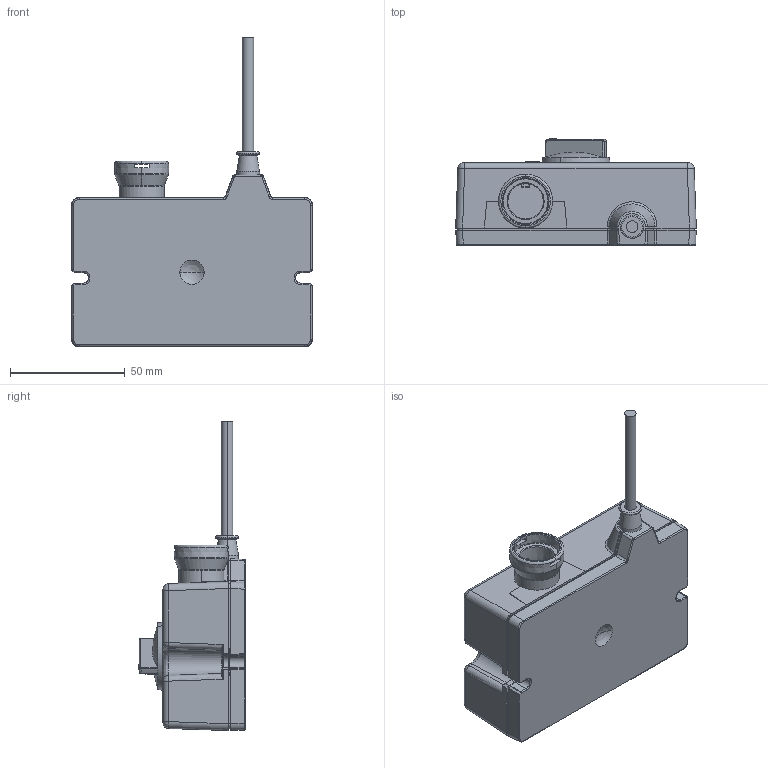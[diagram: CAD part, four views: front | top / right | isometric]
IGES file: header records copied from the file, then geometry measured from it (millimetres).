
Start section:  PTC IGES file: acl_35_modular-plug.igs
Global section: file name: acl_35_modular-plug.igs; native system: Pro/ENGINEER by Parametric Technology Corporation; preprocessor: 2005110; author: KH; organization: Unknown; date: 060201.161629; units: millimetre
Bounding box: 105 x 46.65 x 134.95 mm (x, y, z)
Volume: 242468 mm3; surface area: 30664.3 mm2
Topology: 1 solids, 1 shells, 335 faces, 825 edges, 495 vertices
Faces by surface type: revolution 198, bspline 135, extrusion 2
